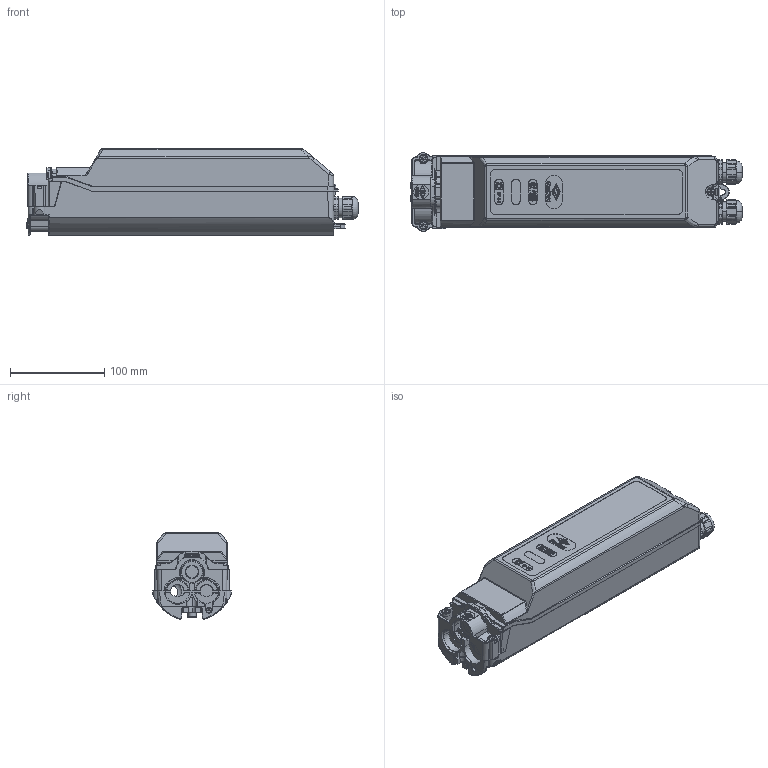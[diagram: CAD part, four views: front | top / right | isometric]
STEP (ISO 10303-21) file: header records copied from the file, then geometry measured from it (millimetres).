
FILE_DESCRIPTION (( 'STEP AP203' ), '1' );
FILE_NAME ('3D - HSW2509-M20 Außenkontur.STEP', '2019-06-28T09:19:10', ( '' ), ( '' ), 'SwSTEP 2.0', 'SolidWorks 2013', '' );
FILE_SCHEMA (( 'CONFIG_CONTROL_DESIGN' ));
Length unit declared in the file: millimetre
Products named in the file (1): 3D - HSW2509-M20 Außenkontur
Bounding box: 353.13 x 83.5 x 91.61 mm (x, y, z)
Surface area: 137350.4 mm2 (no closed solid volume)
Topology: 0 solids, 28 shells, 1255 faces, 4469 edges, 3156 vertices
Faces by surface type: plane 556, cylinder 379, bspline 135, cone 95, torus 84, sphere 6
Entity records: 58079 total; most frequent: CARTESIAN_POINT 22297, ORIENTED_EDGE 7204, DIRECTION 6746, EDGE_CURVE 4461, VERTEX_POINT 3156, VECTOR 2532, LINE 2532, AXIS2_PLACEMENT_3D 2107
